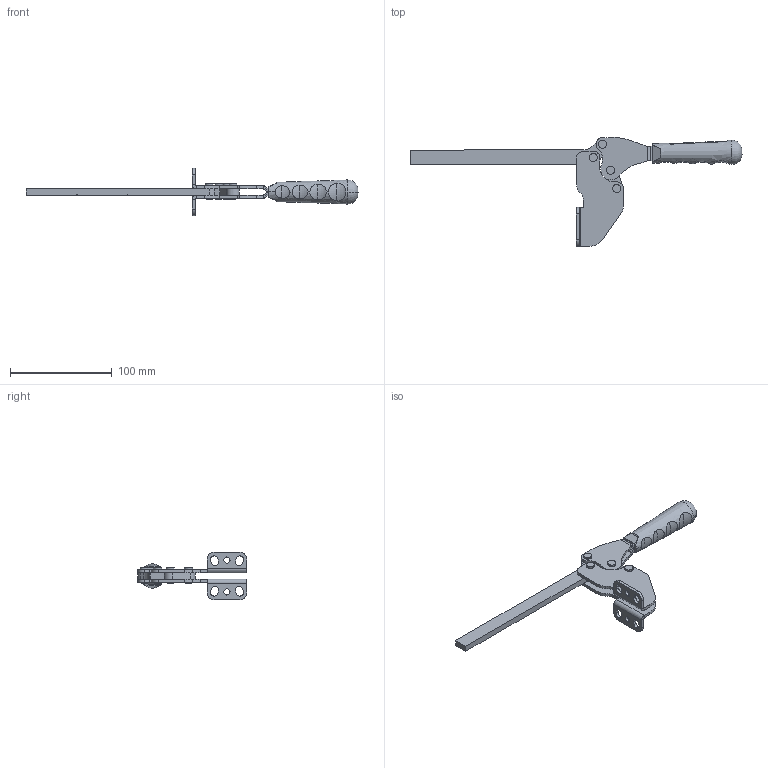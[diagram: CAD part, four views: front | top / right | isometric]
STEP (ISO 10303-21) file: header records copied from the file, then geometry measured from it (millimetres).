
FILE_DESCRIPTION (( 'STEP AP203' ), '1' );
FILE_NAME ('1263_A_L_MONTAJ.STEP', '2022-04-26T14:02:06', ( '' ), ( '' ), 'SwSTEP 2.0', 'SolidWorks 2020', '' );
FILE_SCHEMA (( 'CONFIG_CONTROL_DESIGN' ));
Length unit declared in the file: millimetre
Products named in the file (9): 1263_MAFSAL; 1263_LAMA_BASKI_KOLU; Aynalama1263 A Gövde ; Aynalama1263_HAREKET_KOLU; 1263 A Gövde ; C90_Yeni_Tutamak; 5x17_PERﾇﾝN; 1263_A_L_MONTAJ; 1263_HAREKET_KOLU
Assembly tree (11 placements, depth 2):
  1263_A_L_MONTAJ
    1263_HAREKET_KOLU
    Aynalama1263_HAREKET_KOLU
    5x17_PERﾇﾝN  x4
    1263_MAFSAL
    1263_LAMA_BASKI_KOLU
    1263 A Gövde 
    Aynalama1263 A Gövde 
    C90_Yeni_Tutamak
Bounding box: 327.01 x 107.43 x 46.5 mm (x, y, z)
Volume: 78362.9 mm3; surface area: 49714.2 mm2
Topology: 11 solids, 11 shells, 636 faces, 1646 edges, 1057 vertices
Faces by surface type: plane 383, cylinder 184, torus 36, bspline 27, sphere 4, cone 2
Entity records: 17351 total; most frequent: CARTESIAN_POINT 4682, ORIENTED_EDGE 2452, DIRECTION 2378, EDGE_CURVE 1226, LINE 808, VECTOR 808, VERTEX_POINT 793, AXIS2_PLACEMENT_3D 785
